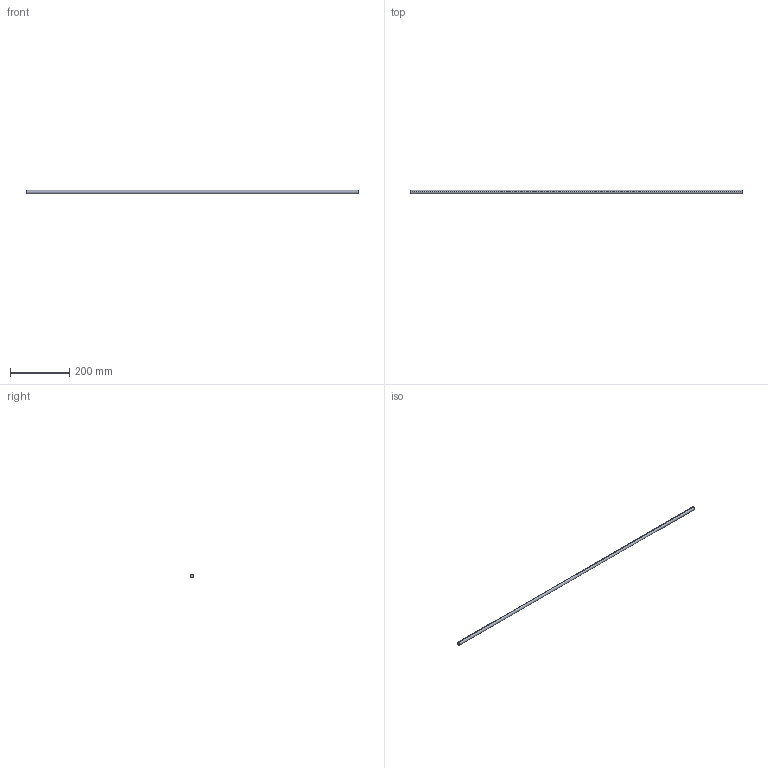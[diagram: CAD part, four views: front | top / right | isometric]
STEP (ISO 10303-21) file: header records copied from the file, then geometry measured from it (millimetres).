
FILE_DESCRIPTION (( 'STEP AP214' ), '1' );
FILE_NAME ('Querreling_2S-Rel_7102_25mm-Halter_KAB-1200.step', '2010-09-22T15:06:09', ( 'grass' ), ( '' ), 'SwSTEP 2.0', 'SolidWorks 2010', '' );
FILE_SCHEMA (( 'AUTOMOTIVE_DESIGN' ));
Length unit declared in the file: millimetre
Products named in the file (1): Querreling_2S-Rel_7102_25mm-Halter_KAB-1200
Bounding box: 1124 x 11 x 11 mm (x, y, z)
Volume: 106817.3 mm3; surface area: 39032.7 mm2
Topology: 1 solids, 1 shells, 4 faces, 6 edges, 4 vertices
Faces by surface type: cylinder 2, plane 2
Entity records: 128 total; most frequent: DIRECTION 20, CARTESIAN_POINT 15, ORIENTED_EDGE 12, AXIS2_PLACEMENT_3D 9, EDGE_CURVE 6, VERTEX_POINT 4, FACE_OUTER_BOUND 4, EDGE_LOOP 4
